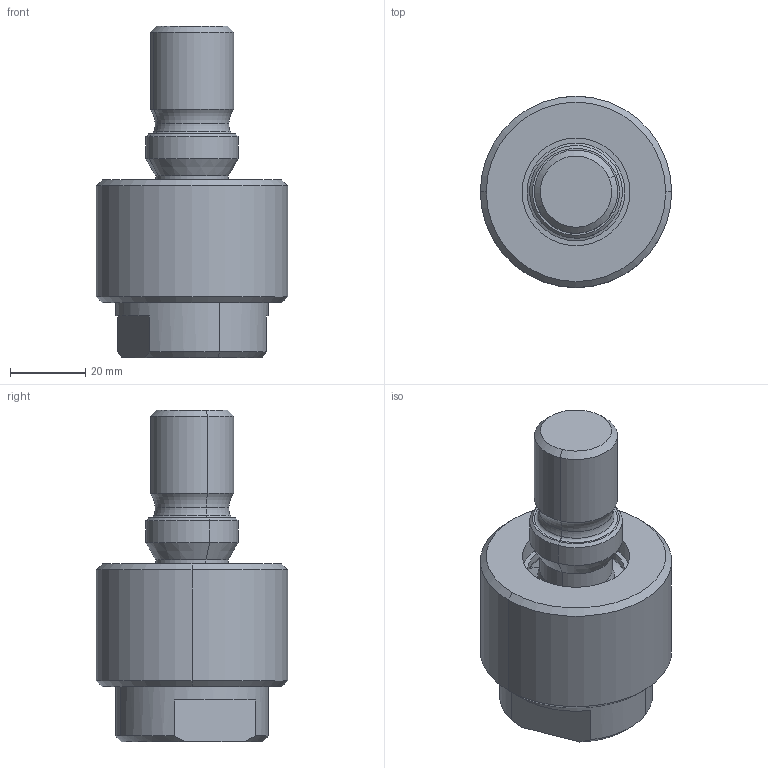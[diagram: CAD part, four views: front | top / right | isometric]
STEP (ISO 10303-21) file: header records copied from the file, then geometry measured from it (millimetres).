
FILE_DESCRIPTION (( 'STEP AP203' ), '1' );
FILE_NAME ('R030-02814.STEP', '2015-02-10T13:36:57', ( '' ), ( '' ), 'SwSTEP 2.0', 'SolidWorks 2014', '' );
FILE_SCHEMA (( 'CONFIG_CONTROL_DESIGN' ));
Length unit declared in the file: inch
Products named in the file (1): R030-02814
Bounding box: 50.8 x 50.8 x 88.06 mm (x, y, z)
Volume: 83462.2 mm3; surface area: 28659.4 mm2
Topology: 5 solids, 5 shells, 92 faces, 200 edges, 120 vertices
Faces by surface type: cylinder 30, cone 21, plane 17, torus 16, sphere 8
Entity records: 2666 total; most frequent: DIRECTION 509, CARTESIAN_POINT 479, ORIENTED_EDGE 396, AXIS2_PLACEMENT_3D 226, EDGE_CURVE 198, CIRCLE 133, VERTEX_POINT 120, EDGE_LOOP 104
